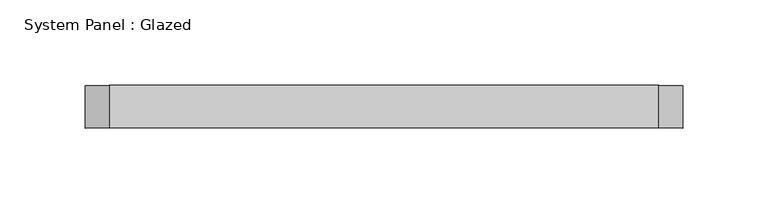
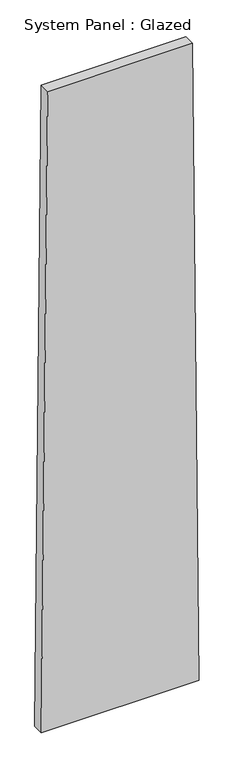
"""IFC4 building model written with IfcOpenShell, lengths in millimetres: plate geometry, System Panel : Glazed."""

import ifcopenshell
import ifcopenshell.guid

model = None  # the IFC model being written
_history = None  # IfcOwnerHistory: only IFC2X3 demands one
_inside = {}  # id of a spatial element -> (the spatial element, [elements in it])
_under = {}  # id of a project, library or spatial element -> (it, [spatial elements below it])
_declared = {}  # id of a project -> (the project, [libraries it declares])
_typed = {}  # id of a type object -> (the type object, [elements of that type])
_made_of = {}  # id of a material, layer set ... -> (it, [elements and type objects made of it])


def new_model(schema):
    """Start an empty IFC model of exactly this schema.

    Asked for "IFC4X3", IfcOpenShell would pick the latest addendum, in which some entities
    have other attributes; the version numbers below select the first issue.
    IFC2X3 requires an IfcOwnerHistory on every rooted entity: one is made here for all.
    """
    global model, _history
    if schema == "IFC4X3":
        model = ifcopenshell.file(schema_version=(4, 3, 0, 0))
    else:
        model = ifcopenshell.file(schema=schema)
    _inside.clear()
    _under.clear()
    _declared.clear()
    _typed.clear()
    _made_of.clear()
    _history = None
    if model.schema == "IFC2X3":
        org = make("IfcOrganization", Name="unknown")
        user = make(
            "IfcPersonAndOrganization",
            ThePerson=make("IfcPerson", FamilyName="unknown"),
            TheOrganization=org,
        )
        app = make(
            "IfcApplication",
            ApplicationDeveloper=org,
            Version="unknown",
            ApplicationFullName="unknown",
            ApplicationIdentifier="unknown",
        )
        _history = make(
            "IfcOwnerHistory",
            OwningUser=user,
            OwningApplication=app,
            ChangeAction="ADDED",
            CreationDate=0,
        )
    return model


def make(cls, **values):
    """One entity of the class cls with the attributes given. An attribute that is None is left unset."""
    return model.create_entity(
        cls, **{name: value for name, value in values.items() if value is not None}
    )


def rooted(cls, **values):
    """An entity with a GlobalId (a new one), such as an element, a storey or a relation."""
    return make(cls, GlobalId=ifcopenshell.guid.new(), OwnerHistory=_history, **values)


def si_unit(unit_type, name, prefix=None):
    """IfcSIUnit, for example si_unit("LENGTHUNIT", "METRE", prefix="MILLI")."""
    return make("IfcSIUnit", UnitType=unit_type, Prefix=prefix, Name=name)


def assignment(units):
    """IfcUnitAssignment: the units of a project."""
    return None if units is None else make("IfcUnitAssignment", Units=units)


def point(xyz):
    """IfcCartesianPoint."""
    return None if xyz is None else make("IfcCartesianPoint", Coordinates=xyz)


def direction(xyz):
    """IfcDirection."""
    return None if xyz is None else make("IfcDirection", DirectionRatios=xyz)


def frame(location, z_axis=None, x_axis=None):
    """IfcAxis2Placement3D, a coordinate frame: its origin and axes. An axis left out is left unset."""
    return make(
        "IfcAxis2Placement3D",
        Location=point(location),
        Axis=direction(z_axis),
        RefDirection=direction(x_axis),
    )


def origin():
    """The frame at (0, 0, 0) with its axes left unset."""
    return frame((0.0, 0.0, 0.0))


def place(relative_to, where):
    """IfcLocalPlacement: puts the frame where relative to a parent placement (None: the world)."""
    return make(
        "IfcLocalPlacement", PlacementRelTo=relative_to, RelativePlacement=where
    )


def context(
    kind, dimensions, precision=None, world=None, true_north=None, identifier=None
):
    """IfcGeometricRepresentationContext, for example the 3D "Model" context."""
    return make(
        "IfcGeometricRepresentationContext",
        ContextIdentifier=identifier,
        ContextType=kind,
        CoordinateSpaceDimension=dimensions,
        Precision=precision,
        WorldCoordinateSystem=world,
        TrueNorth=true_north,
    )


def project(units=None, contexts=None):
    """IfcProject with its units and contexts."""
    return rooted(
        "IfcProject",
        Name="project",
        RepresentationContexts=contexts,
        UnitsInContext=assignment(units),
    )


def spatial(cls, under=None, at=None, **own):
    """A site, building, storey or space (cls), placed at a placement, below another one or the project."""
    s = rooted(cls, ObjectPlacement=at, **own)
    if under is not None:
        _under.setdefault(under.id(), (under, []))[1].append(s)
    return s


def polyline(points):
    """IfcPolyline through the points."""
    return make("IfcPolyline", Points=[point(p) for p in points])


def outline(outer, holes=None, kind="AREA"):
    """IfcArbitraryClosedProfileDef: a profile drawn as a closed curve; with holes, ...WithVoids."""
    if holes is None:
        return make("IfcArbitraryClosedProfileDef", ProfileType=kind, OuterCurve=outer)
    return make(
        "IfcArbitraryProfileDefWithVoids",
        ProfileType=kind,
        OuterCurve=outer,
        InnerCurves=holes,
    )


def extrude(swept, where, along, depth):
    """IfcExtrudedAreaSolid: the profile swept, set in the frame where, extruded along a direction by depth."""
    return make(
        "IfcExtrudedAreaSolid",
        SweptArea=swept,
        Position=where,
        ExtrudedDirection=direction(along),
        Depth=depth,
    )


def shape(context_of_items, identifier, shape_type, items):
    """IfcShapeRepresentation: the items that make up one representation, for example the "Body"."""
    return make(
        "IfcShapeRepresentation",
        ContextOfItems=context_of_items,
        RepresentationIdentifier=identifier,
        RepresentationType=shape_type,
        Items=items,
    )


def source(mapping_origin, context_of_items, identifier, shape_type, items):
    """IfcRepresentationMap: a shape defined once, which mapped items show again and again."""
    return make(
        "IfcRepresentationMap",
        MappingOrigin=mapping_origin,
        MappedRepresentation=shape(context_of_items, identifier, shape_type, items),
    )


def transform(
    local_origin,
    x_axis=None,
    y_axis=None,
    z_axis=None,
    scale=None,
    scale2=None,
    scale3=None,
    uniform=True,
):
    """IfcCartesianTransformationOperator3D, or its non-uniform kind. x_axis, y_axis, z_axis: its Axis1, 2, 3."""
    if uniform:
        return make(
            "IfcCartesianTransformationOperator3D",
            Axis1=direction(x_axis),
            Axis2=direction(y_axis),
            LocalOrigin=point(local_origin),
            Scale=scale,
            Axis3=direction(z_axis),
        )
    return make(
        "IfcCartesianTransformationOperator3DnonUniform",
        Axis1=direction(x_axis),
        Axis2=direction(y_axis),
        LocalOrigin=point(local_origin),
        Scale=scale,
        Axis3=direction(z_axis),
        Scale2=scale2,
        Scale3=scale3,
    )


def mapped(mapping_source, mapping_target):
    """IfcMappedItem: shows the shape of a source again, moved by a transform."""
    return make(
        "IfcMappedItem", MappingSource=mapping_source, MappingTarget=mapping_target
    )


def made_of(thing, what):
    """Note that an element or type object is made of a material, layer set ...; save() writes the relation."""
    if what is not None:
        _made_of.setdefault(what.id(), (what, []))[1].append(thing)
    return thing


def element(
    cls,
    number,
    at=None,
    inside=None,
    cuts=None,
    type_object=None,
    material=None,
    context=None,
    identifier="Body",
    shape_type=None,
    held_by="IfcProductDefinitionShape",
    body=None,
    shapes=None,
    **own,
):
    """One element of the class cls, such as IfcWall. Its Tag is "e" and its number.

    at: its placement. inside: the storey or other place that contains it. cuts: it is an
    opening in that element (IfcRelVoidsElement). A single representation is given by context,
    identifier, shape_type and body (its items); several are given by shapes. held_by: the class
    of the entity that holds the representations. save() writes the other relations.
    """
    e = rooted(cls, Tag="e%d" % number, ObjectPlacement=at, **own)
    if body is not None:
        shapes = [shape(context, identifier, shape_type, body)]
    if shapes is not None:
        e.Representation = make(held_by, Representations=shapes)
    if inside is not None:
        _inside.setdefault(inside.id(), (inside, []))[1].append(e)
    if cuts is not None:
        rooted(
            "IfcRelVoidsElement", RelatingBuildingElement=cuts, RelatedOpeningElement=e
        )
    if type_object is not None:
        _typed.setdefault(type_object.id(), (type_object, []))[1].append(e)
    return made_of(e, material)


def aggregate(whole, parts):
    """IfcRelAggregates: a whole, such as a stair, and the parts it consists of."""
    return rooted("IfcRelAggregates", RelatingObject=whole, RelatedObjects=parts)


def save(model, path):
    """Write the relations noted so far, then the file.

    IfcRelAggregates (storeys below a building ...), IfcRelContainedInSpatialStructure (elements
    in a storey), IfcRelDefinesByType, IfcRelAssociatesMaterial and IfcRelDeclares: one each for
    every whole, place, type object, material and project.
    """
    for whole, parts in _under.values():
        aggregate(whole, parts)
    for where, things in _inside.values():
        rooted(
            "IfcRelContainedInSpatialStructure",
            RelatedElements=things,
            RelatingStructure=where,
        )
    for kind, things in _typed.values():
        rooted("IfcRelDefinesByType", RelatedObjects=things, RelatingType=kind)
    for what, things in _made_of.values():
        rooted("IfcRelAssociatesMaterial", RelatedObjects=things, RelatingMaterial=what)
    for by, libraries in _declared.values():
        rooted("IfcRelDeclares", RelatingContext=by, RelatedDefinitions=libraries)
    model.write(path)


def system_panel_glazed_e56dad58(model_context):
    return source(origin(), model_context, "Body", "SweptSolid", [
        extrude(outline(polyline([(0.0, -175.0260698), (0.0, 175.0260698), (1499.9353592, 161.1004978), (1499.9353592, -161.1006192), (0.0, -175.0260698)])), frame((0.0, -49.5, 0.0), z_axis=(0.0, 1.0, 0.0), x_axis=(0.0, 0.0, 1.0)), (0.0, 0.0, 1.0), 25.0),
    ])


if __name__ == "__main__":
    model = new_model("IFC4")
    model_context = context("Model", 3, world=origin())
    ifc_project = project(units=[si_unit("LENGTHUNIT", "METRE", prefix="MILLI")], contexts=[model_context])
    site = spatial("IfcSite", under=ifc_project)
    building = spatial("IfcBuilding", under=site)
    placement = place(None, origin())
    system_panel_glazed_shape = system_panel_glazed_e56dad58(model_context)
    element("IfcPlate", 1, ObjectType="System Panel : Glazed", at=placement, inside=building, context=model_context, shape_type="MappedRepresentation", body=[
        mapped(system_panel_glazed_shape, transform((0.0, 0.0, 0.0), x_axis=(1.0, 0.0, 0.0), y_axis=(0.0, 1.0, 0.0), z_axis=(0.0, 0.0, 1.0))),
    ])
    save(model, "model.ifc")
